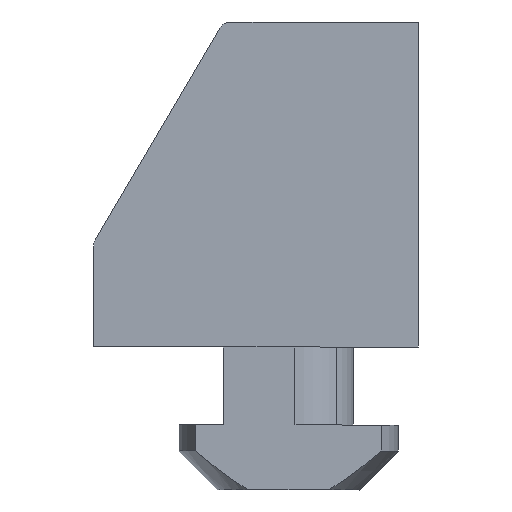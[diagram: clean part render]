
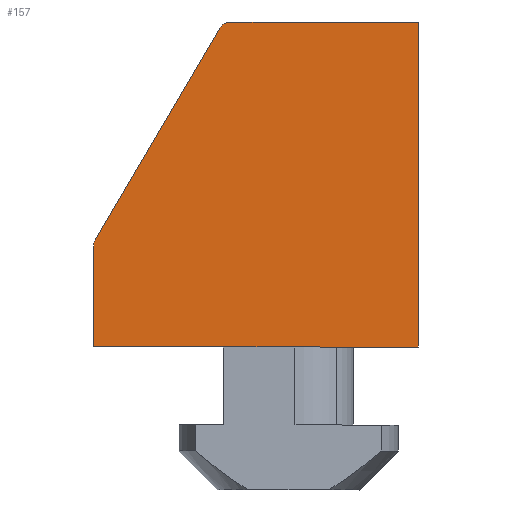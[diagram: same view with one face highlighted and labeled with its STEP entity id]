
A CAD part, front view. The second image highlights one B-rep face of the part: STEP entity #157.
In plain terms, the highlighted planar face has unit normal (0, -1, 0).
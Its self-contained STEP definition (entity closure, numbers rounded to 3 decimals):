
#24 = DIRECTION ( 'NONE',  ( 0., 0., 1. ) ) ;
#43 = CARTESIAN_POINT ( 'NONE',  ( -1.928, -9., 22.5 ) ) ;
#51 = ORIENTED_EDGE ( 'NONE', *, *, #2333, .T. ) ;
#53 = DIRECTION ( 'NONE',  ( 0., -1., 0. ) ) ;
#68 = ORIENTED_EDGE ( 'NONE', *, *, #1050, .F. ) ;
#114 = VECTOR ( 'NONE', #693, 1000. ) ;
#157 = ADVANCED_FACE ( 'NONE', ( #1208 ), #1959, .T. ) ;
#158 = EDGE_CURVE ( 'NONE', #854, #751, #279, .T. ) ;
#214 = CARTESIAN_POINT ( 'NONE',  ( 12.5, -9., -1.5 ) ) ;
#279 = LINE ( 'NONE', #2379, #114 ) ;
#293 = CIRCLE ( 'NONE', #327, 1. ) ;
#327 = AXIS2_PLACEMENT_3D ( 'NONE', #868, #904, #525 ) ;
#417 = VECTOR ( 'NONE', #1454, 1000. ) ;
#477 = VERTEX_POINT ( 'NONE', #1762 ) ;
#525 = DIRECTION ( 'NONE',  ( 0., 0., 1. ) ) ;
#563 = LINE ( 'NONE', #2057, #720 ) ;
#603 = CARTESIAN_POINT ( 'NONE',  ( -9.569, -9., 11.482 ) ) ;
#693 = DIRECTION ( 'NONE',  ( 1., 0., 0. ) ) ;
#720 = VECTOR ( 'NONE', #24, 1000. ) ;
#740 = VERTEX_POINT ( 'NONE', #781 ) ;
#751 = VERTEX_POINT ( 'NONE', #981 ) ;
#775 = CARTESIAN_POINT ( 'NONE',  ( 12.5, -9., -1.5 ) ) ;
#781 = CARTESIAN_POINT ( 'NONE',  ( -2.79, -9., 23.007 ) ) ;
#822 = DIRECTION ( 'NONE',  ( 0., 0., 1. ) ) ;
#854 = VERTEX_POINT ( 'NONE', #1746 ) ;
#868 = CARTESIAN_POINT ( 'NONE',  ( -11.5, -9., 6.228 ) ) ;
#904 = DIRECTION ( 'NONE',  ( 0., -1., 0. ) ) ;
#914 = VECTOR ( 'NONE', #2343, 1000. ) ;
#981 = CARTESIAN_POINT ( 'NONE',  ( 12.5, -9., 23.5 ) ) ;
#984 = EDGE_CURVE ( 'NONE', #2131, #740, #2039, .T. ) ;
#1046 = CIRCLE ( 'NONE', #2025, 1. ) ;
#1050 = EDGE_CURVE ( 'NONE', #751, #2402, #1906, .T. ) ;
#1066 = CARTESIAN_POINT ( 'NONE',  ( 12.5, -9., -1.5 ) ) ;
#1157 = EDGE_CURVE ( 'NONE', #2131, #477, #293, .T. ) ;
#1185 = EDGE_LOOP ( 'NONE', ( #2124, #68, #2010, #51, #2377, #1947, #1207 ) ) ;
#1207 = ORIENTED_EDGE ( 'NONE', *, *, #1337, .F. ) ;
#1208 = FACE_OUTER_BOUND ( 'NONE', #1185, .T. ) ;
#1251 = AXIS2_PLACEMENT_3D ( 'NONE', #2166, #2154, #1787 ) ;
#1337 = EDGE_CURVE ( 'NONE', #1818, #477, #563, .T. ) ;
#1454 = DIRECTION ( 'NONE',  ( -1., 0., 0. ) ) ;
#1505 = CARTESIAN_POINT ( 'NONE',  ( -12.362, -9., 6.735 ) ) ;
#1588 = DIRECTION ( 'NONE',  ( 0., 0., -1. ) ) ;
#1746 = CARTESIAN_POINT ( 'NONE',  ( -1.928, -9., 23.5 ) ) ;
#1762 = CARTESIAN_POINT ( 'NONE',  ( -12.5, -9., 6.228 ) ) ;
#1787 = DIRECTION ( 'NONE',  ( 0., 0., 1. ) ) ;
#1818 = VERTEX_POINT ( 'NONE', #2068 ) ;
#1906 = LINE ( 'NONE', #214, #2292 ) ;
#1947 = ORIENTED_EDGE ( 'NONE', *, *, #1157, .T. ) ;
#1959 = PLANE ( 'NONE',  #1251 ) ;
#1996 = LINE ( 'NONE', #1066, #417 ) ;
#2010 = ORIENTED_EDGE ( 'NONE', *, *, #158, .F. ) ;
#2025 = AXIS2_PLACEMENT_3D ( 'NONE', #43, #53, #822 ) ;
#2039 = LINE ( 'NONE', #603, #914 ) ;
#2057 = CARTESIAN_POINT ( 'NONE',  ( -12.5, -9., -1.5 ) ) ;
#2068 = CARTESIAN_POINT ( 'NONE',  ( -12.5, -9., -1.5 ) ) ;
#2101 = EDGE_CURVE ( 'NONE', #2402, #1818, #1996, .T. ) ;
#2124 = ORIENTED_EDGE ( 'NONE', *, *, #2101, .F. ) ;
#2131 = VERTEX_POINT ( 'NONE', #1505 ) ;
#2154 = DIRECTION ( 'NONE',  ( 0., -1., 0. ) ) ;
#2166 = CARTESIAN_POINT ( 'NONE',  ( 12.5, -9., -1.5 ) ) ;
#2292 = VECTOR ( 'NONE', #1588, 1000. ) ;
#2333 = EDGE_CURVE ( 'NONE', #854, #740, #1046, .T. ) ;
#2343 = DIRECTION ( 'NONE',  ( 0.507, 0., 0.862 ) ) ;
#2377 = ORIENTED_EDGE ( 'NONE', *, *, #984, .F. ) ;
#2379 = CARTESIAN_POINT ( 'NONE',  ( 12.5, -9., 23.5 ) ) ;
#2402 = VERTEX_POINT ( 'NONE', #775 ) ;
